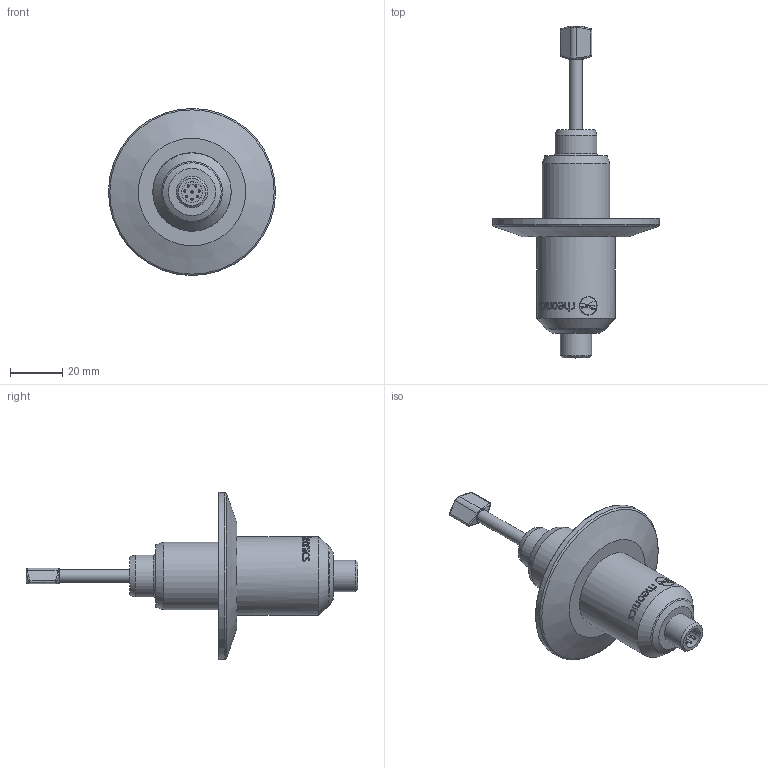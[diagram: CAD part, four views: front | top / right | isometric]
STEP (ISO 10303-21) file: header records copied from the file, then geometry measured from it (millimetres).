
FILE_DESCRIPTION(/* description */ ('Unknown'),/* implementation_level */ '2;1');
FILE_NAME(/* name */ 'SRD-X3-20T',/* time_stamp */ '2024-01-15T15:48:29-05:00',/* author */ ('Unknown'),/* organization */ ('Unknown'),/* preprocessor_version */ 'ST-DEVELOPER v16.7',/* originating_system */ 'Solid Edge',/* authorisation */ 'Unknown');
FILE_SCHEMA (('CONFIG_CONTROL_DESIGN'));
Length unit declared in the file: millimetre
Products named in the file (1): SRD-X3-20T
Bounding box: 64 x 127.15 x 64 mm (x, y, z)
Volume: 58930.1 mm3; surface area: 14438.2 mm2
Topology: 1 solids, 1 shells, 207 faces, 511 edges, 328 vertices
Faces by surface type: bspline 94, plane 42, cylinder 41, cone 12, torus 10, sphere 8
Full cylindrical faces by diameter (mm): 0.8 x8, 5 x1, 8 x1, 12 x1, 16 x1, 26 x1, 30 x1, 64 x1
Entity records: 10751 total; most frequent: CARTESIAN_POINT 5313, ORIENTED_EDGE 900, DIRECTION 562, EDGE_CURVE 450, VERTEX_POINT 306, EDGE_LOOP 268, FACE_BOUND 268, B_SPLINE_CURVE_WITH_KNOTS 215
